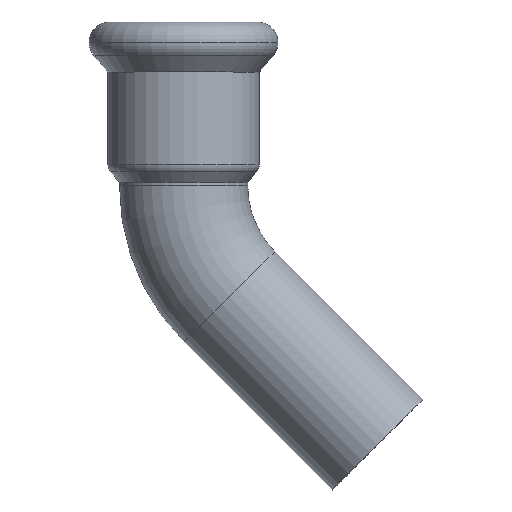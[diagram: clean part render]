
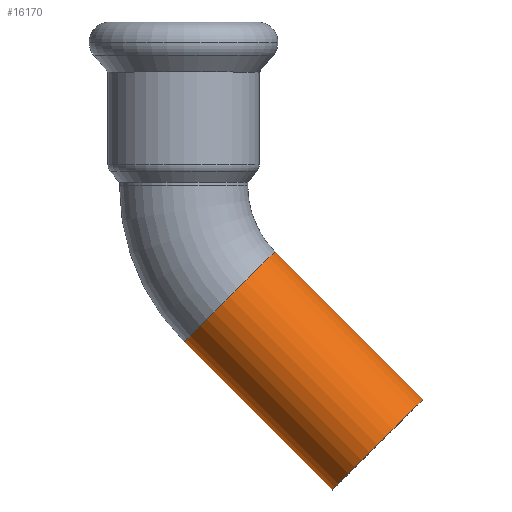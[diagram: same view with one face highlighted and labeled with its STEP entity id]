
A CAD part, top view. The second image highlights one B-rep face of the part: STEP entity #16170.
In plain terms, the highlighted cylindrical face has radius 9 mm (diameter 18 mm), a partial arc.
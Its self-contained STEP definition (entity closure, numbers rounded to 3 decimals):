
#14550=CARTESIAN_POINT('',(-196.533,26.577,0.));
#14560=DIRECTION('',(0.707,-0.707,0.));
#14570=DIRECTION('',(-0.707,-0.707,0.));
#14580=AXIS2_PLACEMENT_3D('',#14550,#14560,#14570);
#14590=CIRCLE('',#14580,9.);
#14600=CARTESIAN_POINT('',(-196.533,26.577,9.));
#14610=VERTEX_POINT('',#14600);
#14620=CARTESIAN_POINT('',(-202.897,20.213,
0.));
#14630=VERTEX_POINT('',#14620);
#14640=EDGE_CURVE('',#14610,#14630,#14590,.T.);
#14800=CARTESIAN_POINT('',(-190.169,32.941,
0.));
#14810=VERTEX_POINT('',#14800);
#14840=EDGE_CURVE('',#14810,#14610,#14590,.T.);
#15280=CARTESIAN_POINT('',(-196.533,26.577,0.));
#15290=DIRECTION('',(-0.707,0.707,0.));
#15300=DIRECTION('',(-0.707,-0.707,0.));
#15310=AXIS2_PLACEMENT_3D('',#15280,#15290,#15300);
#15320=CYLINDRICAL_SURFACE('',#15310,9.);
#15330=CARTESIAN_POINT('',(-190.169,32.941,
0.));
#15340=DIRECTION('',(-0.707,0.707,0.));
#15350=VECTOR('',#15340,1.);
#15360=LINE('',#15330,#15350);
#15370=CARTESIAN_POINT('',(-169.389,12.161,
0.));
#15380=VERTEX_POINT('',#15370);
#15390=EDGE_CURVE('',#15380,#14810,#15360,.T.);
#15430=CARTESIAN_POINT('',(-202.897,20.213,0.));
#15440=DIRECTION('',(-0.707,0.707,0.));
#15450=VECTOR('',#15440,1.);
#15460=LINE('',#15430,#15450);
#15470=CARTESIAN_POINT('',(-182.117,-0.567,0.));
#15480=VERTEX_POINT('',#15470);
#15490=EDGE_CURVE('',#15480,#14630,#15460,.T.);
#15510=CARTESIAN_POINT('',(-175.753,5.797,0.));
#15520=DIRECTION('',(-0.707,0.707,0.));
#15530=DIRECTION('',(-0.707,-0.707,0.));
#15540=AXIS2_PLACEMENT_3D('',#15510,#15520,#15530);
#15550=CIRCLE('',#15540,9.);
#15660=EDGE_CURVE('',#15480,#15380,#15550,.T.);
#16100=ORIENTED_EDGE('',*,*,#15390,.T.);
#16110=ORIENTED_EDGE('',*,*,#15660,.T.);
#16120=ORIENTED_EDGE('',*,*,#15490,.F.);
#16130=ORIENTED_EDGE('',*,*,#14640,.T.);
#16140=ORIENTED_EDGE('',*,*,#14840,.T.);
#16150=EDGE_LOOP('',(#16140,#16130,#16120,#16110,#16100));
#16160=FACE_OUTER_BOUND('',#16150,.T.);
#16170=ADVANCED_FACE('',(#16160),#15320,.T.);
